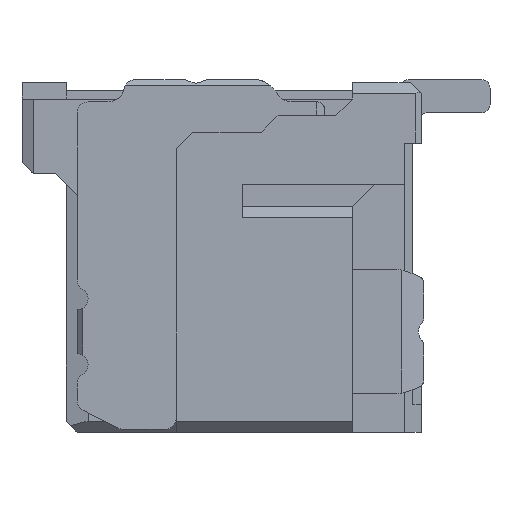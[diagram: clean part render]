
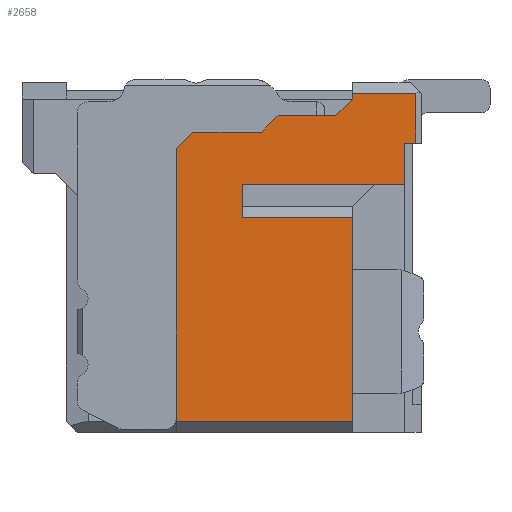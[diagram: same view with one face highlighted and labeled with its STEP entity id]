
A CAD part, front view. The second image highlights one B-rep face of the part: STEP entity #2658.
In plain terms, the highlighted planar face has unit normal (0, -1, 0).
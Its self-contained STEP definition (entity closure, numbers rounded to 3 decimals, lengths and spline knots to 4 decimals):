
#1014 = DIRECTION ( 'NONE',  ( 0.707, 0., 0.707 ) ) ;
#1412 = VECTOR ( 'NONE', #51110, 1000. ) ;
#1550 = FACE_OUTER_BOUND ( 'NONE', #49883, .T. ) ;
#2079 = PLANE ( 'NONE',  #29559 ) ;
#2658 = ADVANCED_FACE ( 'NONE', ( #1550 ), #2079, .F. ) ;
#2716 = EDGE_CURVE ( 'NONE', #45380, #16388, #27165, .T. ) ;
#3321 = LINE ( 'NONE', #36942, #47425 ) ;
#4095 = ORIENTED_EDGE ( 'NONE', *, *, #41668, .F. ) ;
#4531 = LINE ( 'NONE', #17470, #1412 ) ;
#4631 = CARTESIAN_POINT ( 'NONE',  ( 1.975, -8.15, 0.5608 ) ) ;
#4944 = VERTEX_POINT ( 'NONE', #43821 ) ;
#5446 = LINE ( 'NONE', #4631, #20657 ) ;
#5747 = CARTESIAN_POINT ( 'NONE',  ( 2.925, -8.15, 1.9108 ) ) ;
#6538 = CARTESIAN_POINT ( 'NONE',  ( 3.125, -8.15, 1.9108 ) ) ;
#6798 = DIRECTION ( 'NONE',  ( 0., 0., 1. ) ) ;
#6898 = VECTOR ( 'NONE', #29493, 1000. ) ;
#6904 = DIRECTION ( 'NONE',  ( -1., 0., 0. ) ) ;
#7625 = EDGE_CURVE ( 'NONE', #4944, #8414, #10811, .T. ) ;
#7705 = CARTESIAN_POINT ( 'NONE',  ( -1.225, -8.15, -3.1392 ) ) ;
#8414 = VERTEX_POINT ( 'NONE', #47867 ) ;
#8664 = DIRECTION ( 'NONE',  ( 1., 0., 0. ) ) ;
#9309 = CARTESIAN_POINT ( 'NONE',  ( -0.025, -8.15, 1.1608 ) ) ;
#9742 = CARTESIAN_POINT ( 'NONE',  ( -1.225, -8.15, 1.8108 ) ) ;
#10114 = VECTOR ( 'NONE', #43234, 1000. ) ;
#10811 = LINE ( 'NONE', #7705, #28116 ) ;
#12577 = CARTESIAN_POINT ( 'NONE',  ( 1.675, -8.15, 2.4108 ) ) ;
#12660 = DIRECTION ( 'NONE',  ( 1., 0., 0. ) ) ;
#12676 = CARTESIAN_POINT ( 'NONE',  ( 2.925, -8.15, 1.9108 ) ) ;
#12871 = CARTESIAN_POINT ( 'NONE',  ( -0.025, -8.15, 0.5608 ) ) ;
#13199 = LINE ( 'NONE', #38837, #51464 ) ;
#13518 = ORIENTED_EDGE ( 'NONE', *, *, #15408, .T. ) ;
#13601 = VECTOR ( 'NONE', #6798, 1000. ) ;
#13720 = VERTEX_POINT ( 'NONE', #28356 ) ;
#13865 = VECTOR ( 'NONE', #31168, 1000. ) ;
#13951 = DIRECTION ( 'NONE',  ( 1., 0., 0. ) ) ;
#14086 = CARTESIAN_POINT ( 'NONE',  ( 1.975, -8.15, 2.8108 ) ) ;
#14091 = ORIENTED_EDGE ( 'NONE', *, *, #54359, .T. ) ;
#15408 = EDGE_CURVE ( 'NONE', #54380, #30612, #42122, .T. ) ;
#15413 = VERTEX_POINT ( 'NONE', #47063 ) ;
#16388 = VERTEX_POINT ( 'NONE', #45127 ) ;
#17241 = VECTOR ( 'NONE', #42396, 1000. ) ;
#17470 = CARTESIAN_POINT ( 'NONE',  ( 0.325, -8.15, 2.1108 ) ) ;
#17670 = VERTEX_POINT ( 'NONE', #12871 ) ;
#17992 = VECTOR ( 'NONE', #6904, 1000. ) ;
#18471 = EDGE_CURVE ( 'NONE', #30612, #36513, #51849, .T. ) ;
#18497 = CARTESIAN_POINT ( 'NONE',  ( 1.975, -8.15, 0.5608 ) ) ;
#19401 = ORIENTED_EDGE ( 'NONE', *, *, #18471, .T. ) ;
#20657 = VECTOR ( 'NONE', #37988, 1000. ) ;
#20858 = CARTESIAN_POINT ( 'NONE',  ( 3.125, -8.15, 2.8108 ) ) ;
#21675 = DIRECTION ( 'NONE',  ( -1., 0., 0. ) ) ;
#22492 = CARTESIAN_POINT ( 'NONE',  ( 1.675, -8.15, 2.4108 ) ) ;
#22546 = ORIENTED_EDGE ( 'NONE', *, *, #48336, .F. ) ;
#22622 = VERTEX_POINT ( 'NONE', #5747 ) ;
#22658 = ORIENTED_EDGE ( 'NONE', *, *, #31079, .T. ) ;
#22689 = EDGE_CURVE ( 'NONE', #4944, #36566, #13199, .T. ) ;
#23773 = ORIENTED_EDGE ( 'NONE', *, *, #35469, .T. ) ;
#24103 = CARTESIAN_POINT ( 'NONE',  ( 1.975, -8.15, 2.7108 ) ) ;
#24661 = EDGE_CURVE ( 'NONE', #37355, #54380, #52022, .T. ) ;
#24891 = CARTESIAN_POINT ( 'NONE',  ( 0.325, -8.15, 2.1108 ) ) ;
#25945 = CARTESIAN_POINT ( 'NONE',  ( 1.975, -8.15, 0.5608 ) ) ;
#27165 = LINE ( 'NONE', #22492, #38357 ) ;
#27345 = EDGE_CURVE ( 'NONE', #44703, #17670, #49093, .T. ) ;
#27979 = EDGE_CURVE ( 'NONE', #44703, #8414, #5446, .T. ) ;
#28116 = VECTOR ( 'NONE', #12660, 1000. ) ;
#28356 = CARTESIAN_POINT ( 'NONE',  ( 2.925, -8.15, 1.1608 ) ) ;
#28554 = CARTESIAN_POINT ( 'NONE',  ( 3.125, -8.15, 2.8108 ) ) ;
#28743 = ORIENTED_EDGE ( 'NONE', *, *, #7625, .T. ) ;
#29015 = LINE ( 'NONE', #24891, #35226 ) ;
#29493 = DIRECTION ( 'NONE',  ( 1., 0., 0. ) ) ;
#29543 = CARTESIAN_POINT ( 'NONE',  ( 1.975, -8.15, 2.8108 ) ) ;
#29559 = AXIS2_PLACEMENT_3D ( 'NONE', #35439, #52523, #13951 ) ;
#30230 = LINE ( 'NONE', #38782, #42791 ) ;
#30429 = LINE ( 'NONE', #46707, #37415 ) ;
#30612 = VERTEX_POINT ( 'NONE', #29543 ) ;
#30652 = ORIENTED_EDGE ( 'NONE', *, *, #27345, .T. ) ;
#30919 = ORIENTED_EDGE ( 'NONE', *, *, #2716, .T. ) ;
#31079 = EDGE_CURVE ( 'NONE', #17670, #51950, #51189, .T. ) ;
#31168 = DIRECTION ( 'NONE',  ( 0., 0., -1. ) ) ;
#34783 = ORIENTED_EDGE ( 'NONE', *, *, #24661, .T. ) ;
#34915 = DIRECTION ( 'NONE',  ( -1., 0., 0. ) ) ;
#35226 = VECTOR ( 'NONE', #41729, 1000. ) ;
#35439 = CARTESIAN_POINT ( 'NONE',  ( 0.95, -8.15, -0.1642 ) ) ;
#35469 = EDGE_CURVE ( 'NONE', #51950, #13720, #30429, .T. ) ;
#36191 = EDGE_CURVE ( 'NONE', #36566, #15413, #30230, .T. ) ;
#36513 = VERTEX_POINT ( 'NONE', #24103 ) ;
#36560 = EDGE_CURVE ( 'NONE', #52995, #15413, #4531, .T. ) ;
#36566 = VERTEX_POINT ( 'NONE', #9742 ) ;
#36942 = CARTESIAN_POINT ( 'NONE',  ( 1.675, -8.15, 2.4108 ) ) ;
#37355 = VERTEX_POINT ( 'NONE', #6538 ) ;
#37415 = VECTOR ( 'NONE', #8664, 1000. ) ;
#37765 = LINE ( 'NONE', #12676, #6898 ) ;
#37988 = DIRECTION ( 'NONE',  ( 0., 0., -1. ) ) ;
#38357 = VECTOR ( 'NONE', #34915, 1000. ) ;
#38782 = CARTESIAN_POINT ( 'NONE',  ( -1.225, -8.15, 1.8108 ) ) ;
#38837 = CARTESIAN_POINT ( 'NONE',  ( -1.225, -8.15, -3.1392 ) ) ;
#39003 = ORIENTED_EDGE ( 'NONE', *, *, #36560, .T. ) ;
#39366 = CARTESIAN_POINT ( 'NONE',  ( 3.125, -8.15, 1.9108 ) ) ;
#41668 = EDGE_CURVE ( 'NONE', #52995, #16388, #29015, .T. ) ;
#41729 = DIRECTION ( 'NONE',  ( 0.707, 0., 0.707 ) ) ;
#42122 = LINE ( 'NONE', #20858, #51456 ) ;
#42273 = ORIENTED_EDGE ( 'NONE', *, *, #48503, .T. ) ;
#42396 = DIRECTION ( 'NONE',  ( 0., 0., 1. ) ) ;
#42701 = CARTESIAN_POINT ( 'NONE',  ( 0.325, -8.15, 2.1108 ) ) ;
#42791 = VECTOR ( 'NONE', #1014, 1000. ) ;
#43041 = LINE ( 'NONE', #44837, #13601 ) ;
#43234 = DIRECTION ( 'NONE',  ( 0., 0., 1. ) ) ;
#43821 = CARTESIAN_POINT ( 'NONE',  ( -1.225, -8.15, -3.1392 ) ) ;
#44703 = VERTEX_POINT ( 'NONE', #25945 ) ;
#44837 = CARTESIAN_POINT ( 'NONE',  ( 2.925, -8.15, 1.1608 ) ) ;
#45093 = ORIENTED_EDGE ( 'NONE', *, *, #36191, .F. ) ;
#45127 = CARTESIAN_POINT ( 'NONE',  ( 0.625, -8.15, 2.4108 ) ) ;
#45380 = VERTEX_POINT ( 'NONE', #12577 ) ;
#46707 = CARTESIAN_POINT ( 'NONE',  ( -0.025, -8.15, 1.1608 ) ) ;
#47063 = CARTESIAN_POINT ( 'NONE',  ( -0.925, -8.15, 2.1108 ) ) ;
#47071 = CARTESIAN_POINT ( 'NONE',  ( -0.025, -8.15, 0.5608 ) ) ;
#47425 = VECTOR ( 'NONE', #53753, 1000. ) ;
#47777 = ORIENTED_EDGE ( 'NONE', *, *, #27979, .F. ) ;
#47867 = CARTESIAN_POINT ( 'NONE',  ( 1.975, -8.15, -3.1392 ) ) ;
#48336 = EDGE_CURVE ( 'NONE', #45380, #36513, #3321, .T. ) ;
#48404 = ORIENTED_EDGE ( 'NONE', *, *, #22689, .F. ) ;
#48503 = EDGE_CURVE ( 'NONE', #22622, #37355, #37765, .T. ) ;
#49093 = LINE ( 'NONE', #18497, #17992 ) ;
#49883 = EDGE_LOOP ( 'NONE', ( #13518, #19401, #22546, #30919, #4095, #39003, #45093, #48404, #28743, #47777, #30652, #22658, #23773, #14091, #42273, #34783 ) ) ;
#51110 = DIRECTION ( 'NONE',  ( -1., 0., 0. ) ) ;
#51189 = LINE ( 'NONE', #47071, #17241 ) ;
#51456 = VECTOR ( 'NONE', #21675, 1000. ) ;
#51464 = VECTOR ( 'NONE', #52037, 1000. ) ;
#51849 = LINE ( 'NONE', #14086, #13865 ) ;
#51950 = VERTEX_POINT ( 'NONE', #9309 ) ;
#52022 = LINE ( 'NONE', #39366, #10114 ) ;
#52037 = DIRECTION ( 'NONE',  ( 0., 0., 1. ) ) ;
#52523 = DIRECTION ( 'NONE',  ( 0., 1., 0. ) ) ;
#52995 = VERTEX_POINT ( 'NONE', #42701 ) ;
#53753 = DIRECTION ( 'NONE',  ( 0.707, 0., 0.707 ) ) ;
#54359 = EDGE_CURVE ( 'NONE', #13720, #22622, #43041, .T. ) ;
#54380 = VERTEX_POINT ( 'NONE', #28554 ) ;
